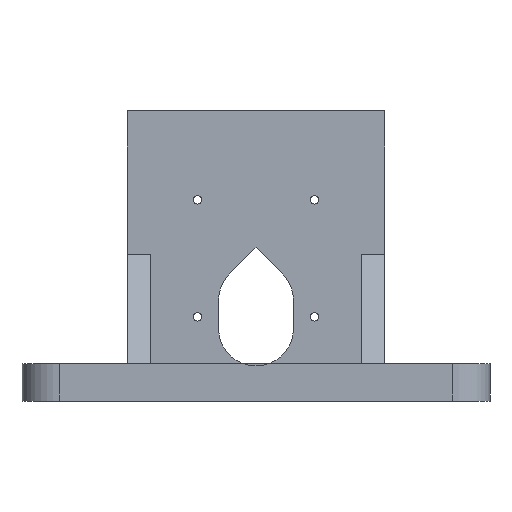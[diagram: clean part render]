
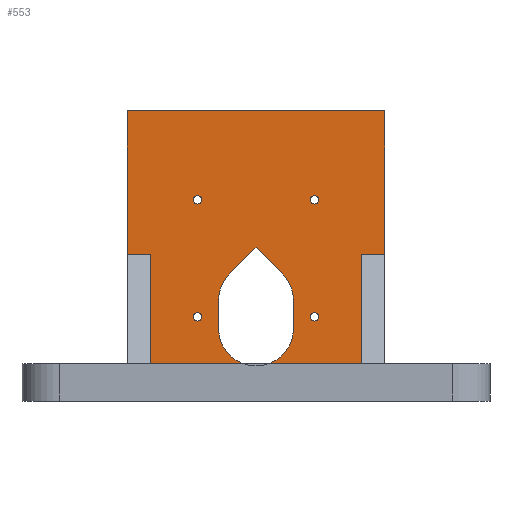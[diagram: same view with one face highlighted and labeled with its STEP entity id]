
A CAD part, left-side view. The second image highlights one B-rep face of the part: STEP entity #553.
In plain terms, the highlighted planar face has unit normal (-1, 0, 0).
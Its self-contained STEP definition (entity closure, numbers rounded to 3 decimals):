
#117 = VERTEX_POINT('',#118);
#118 = CARTESIAN_POINT('',(1.6,2.784,8.));
#124 = EDGE_CURVE('',#117,#125,#127,.T.);
#125 = VERTEX_POINT('',#126);
#126 = CARTESIAN_POINT('',(1.6,22.5,8.));
#127 = LINE('',#128,#129);
#128 = CARTESIAN_POINT('',(1.6,-13.75,8.));
#129 = VECTOR('',#130,1.);
#130 = DIRECTION('',(0.,1.,0.));
#213 = VERTEX_POINT('',#214);
#214 = CARTESIAN_POINT('',(1.6,-22.5,8.));
#220 = EDGE_CURVE('',#213,#221,#223,.T.);
#221 = VERTEX_POINT('',#222);
#222 = CARTESIAN_POINT('',(1.6,-2.784,8.));
#223 = LINE('',#224,#225);
#224 = CARTESIAN_POINT('',(1.6,-13.75,8.));
#225 = VECTOR('',#226,1.);
#226 = DIRECTION('',(0.,1.,0.));
#553 = ADVANCED_FACE('',(#554,#678,#689,#700,#711),#722,.F.);
#554 = FACE_BOUND('',#555,.F.);
#555 = EDGE_LOOP('',(#556,#566,#574,#580,#581,#590,#598,#607,#615,#623,
    #632,#640,#647,#648,#656,#664,#672));
#556 = ORIENTED_EDGE('',*,*,#557,.F.);
#557 = EDGE_CURVE('',#558,#560,#562,.T.);
#558 = VERTEX_POINT('',#559);
#559 = CARTESIAN_POINT('',(1.6,-27.5,31.375));
#560 = VERTEX_POINT('',#561);
#561 = CARTESIAN_POINT('',(1.6,-27.5,62.));
#562 = LINE('',#563,#564);
#563 = CARTESIAN_POINT('',(1.6,-27.5,7.));
#564 = VECTOR('',#565,1.);
#565 = DIRECTION('',(0.,0.,1.));
#566 = ORIENTED_EDGE('',*,*,#567,.F.);
#567 = EDGE_CURVE('',#568,#558,#570,.T.);
#568 = VERTEX_POINT('',#569);
#569 = CARTESIAN_POINT('',(1.6,-22.5,31.375));
#570 = LINE('',#571,#572);
#571 = CARTESIAN_POINT('',(1.6,-27.5,31.375));
#572 = VECTOR('',#573,1.);
#573 = DIRECTION('',(0.,-1.,0.));
#574 = ORIENTED_EDGE('',*,*,#575,.F.);
#575 = EDGE_CURVE('',#213,#568,#576,.T.);
#576 = LINE('',#577,#578);
#577 = CARTESIAN_POINT('',(1.6,-22.5,7.));
#578 = VECTOR('',#579,1.);
#579 = DIRECTION('',(0.,0.,1.));
#580 = ORIENTED_EDGE('',*,*,#220,.T.);
#581 = ORIENTED_EDGE('',*,*,#582,.T.);
#582 = EDGE_CURVE('',#221,#583,#585,.T.);
#583 = VERTEX_POINT('',#584);
#584 = CARTESIAN_POINT('',(1.6,-8.,15.5));
#585 = CIRCLE('',#586,8.);
#586 = AXIS2_PLACEMENT_3D('',#587,#588,#589);
#587 = CARTESIAN_POINT('',(1.6,0.,15.5));
#588 = DIRECTION('',(-1.,-0.,0.));
#589 = DIRECTION('',(0.,0.,-1.));
#590 = ORIENTED_EDGE('',*,*,#591,.T.);
#591 = EDGE_CURVE('',#583,#592,#594,.T.);
#592 = VERTEX_POINT('',#593);
#593 = CARTESIAN_POINT('',(1.6,-8.,21.5));
#594 = LINE('',#595,#596);
#595 = CARTESIAN_POINT('',(1.6,-8.,11.25));
#596 = VECTOR('',#597,1.);
#597 = DIRECTION('',(0.,0.,1.));
#598 = ORIENTED_EDGE('',*,*,#599,.T.);
#599 = EDGE_CURVE('',#592,#600,#602,.T.);
#600 = VERTEX_POINT('',#601);
#601 = CARTESIAN_POINT('',(1.6,-5.657,27.157));
#602 = CIRCLE('',#603,8.);
#603 = AXIS2_PLACEMENT_3D('',#604,#605,#606);
#604 = CARTESIAN_POINT('',(1.6,0.,21.5));
#605 = DIRECTION('',(-1.,-0.,0.));
#606 = DIRECTION('',(0.,0.,-1.));
#607 = ORIENTED_EDGE('',*,*,#608,.T.);
#608 = EDGE_CURVE('',#600,#609,#611,.T.);
#609 = VERTEX_POINT('',#610);
#610 = CARTESIAN_POINT('',(1.6,0.,32.814));
#611 = LINE('',#612,#613);
#612 = CARTESIAN_POINT('',(1.6,-13.328,19.485));
#613 = VECTOR('',#614,1.);
#614 = DIRECTION('',(0.,0.707,0.707));
#615 = ORIENTED_EDGE('',*,*,#616,.T.);
#616 = EDGE_CURVE('',#609,#617,#619,.T.);
#617 = VERTEX_POINT('',#618);
#618 = CARTESIAN_POINT('',(1.6,5.657,27.157));
#619 = LINE('',#620,#621);
#620 = CARTESIAN_POINT('',(1.6,5.235,27.578));
#621 = VECTOR('',#622,1.);
#622 = DIRECTION('',(0.,0.707,-0.707));
#623 = ORIENTED_EDGE('',*,*,#624,.T.);
#624 = EDGE_CURVE('',#617,#625,#627,.T.);
#625 = VERTEX_POINT('',#626);
#626 = CARTESIAN_POINT('',(1.6,8.,21.5));
#627 = CIRCLE('',#628,8.);
#628 = AXIS2_PLACEMENT_3D('',#629,#630,#631);
#629 = CARTESIAN_POINT('',(1.6,0.,21.5));
#630 = DIRECTION('',(-1.,-0.,0.));
#631 = DIRECTION('',(0.,0.,-1.));
#632 = ORIENTED_EDGE('',*,*,#633,.F.);
#633 = EDGE_CURVE('',#634,#625,#636,.T.);
#634 = VERTEX_POINT('',#635);
#635 = CARTESIAN_POINT('',(1.6,8.,15.5));
#636 = LINE('',#637,#638);
#637 = CARTESIAN_POINT('',(1.6,8.,11.25));
#638 = VECTOR('',#639,1.);
#639 = DIRECTION('',(0.,0.,1.));
#640 = ORIENTED_EDGE('',*,*,#641,.T.);
#641 = EDGE_CURVE('',#634,#117,#642,.T.);
#642 = CIRCLE('',#643,8.);
#643 = AXIS2_PLACEMENT_3D('',#644,#645,#646);
#644 = CARTESIAN_POINT('',(1.6,0.,15.5));
#645 = DIRECTION('',(-1.,-0.,0.));
#646 = DIRECTION('',(0.,0.,-1.));
#647 = ORIENTED_EDGE('',*,*,#124,.T.);
#648 = ORIENTED_EDGE('',*,*,#649,.T.);
#649 = EDGE_CURVE('',#125,#650,#652,.T.);
#650 = VERTEX_POINT('',#651);
#651 = CARTESIAN_POINT('',(1.6,22.5,31.375));
#652 = LINE('',#653,#654);
#653 = CARTESIAN_POINT('',(1.6,22.5,7.));
#654 = VECTOR('',#655,1.);
#655 = DIRECTION('',(0.,0.,1.));
#656 = ORIENTED_EDGE('',*,*,#657,.F.);
#657 = EDGE_CURVE('',#658,#650,#660,.T.);
#658 = VERTEX_POINT('',#659);
#659 = CARTESIAN_POINT('',(1.6,27.5,31.375));
#660 = LINE('',#661,#662);
#661 = CARTESIAN_POINT('',(1.6,-2.5,31.375));
#662 = VECTOR('',#663,1.);
#663 = DIRECTION('',(0.,-1.,0.));
#664 = ORIENTED_EDGE('',*,*,#665,.T.);
#665 = EDGE_CURVE('',#658,#666,#668,.T.);
#666 = VERTEX_POINT('',#667);
#667 = CARTESIAN_POINT('',(1.6,27.5,62.));
#668 = LINE('',#669,#670);
#669 = CARTESIAN_POINT('',(1.6,27.5,7.));
#670 = VECTOR('',#671,1.);
#671 = DIRECTION('',(0.,0.,1.));
#672 = ORIENTED_EDGE('',*,*,#673,.F.);
#673 = EDGE_CURVE('',#560,#666,#674,.T.);
#674 = LINE('',#675,#676);
#675 = CARTESIAN_POINT('',(1.6,-27.5,62.));
#676 = VECTOR('',#677,1.);
#677 = DIRECTION('',(0.,1.,0.));
#678 = FACE_BOUND('',#679,.F.);
#679 = EDGE_LOOP('',(#680));
#680 = ORIENTED_EDGE('',*,*,#681,.T.);
#681 = EDGE_CURVE('',#682,#682,#684,.T.);
#682 = VERTEX_POINT('',#683);
#683 = CARTESIAN_POINT('',(1.6,12.5,17.1));
#684 = CIRCLE('',#685,0.9);
#685 = AXIS2_PLACEMENT_3D('',#686,#687,#688);
#686 = CARTESIAN_POINT('',(1.6,12.5,18.));
#687 = DIRECTION('',(-1.,-0.,0.));
#688 = DIRECTION('',(0.,0.,-1.));
#689 = FACE_BOUND('',#690,.F.);
#690 = EDGE_LOOP('',(#691));
#691 = ORIENTED_EDGE('',*,*,#692,.T.);
#692 = EDGE_CURVE('',#693,#693,#695,.T.);
#693 = VERTEX_POINT('',#694);
#694 = CARTESIAN_POINT('',(1.6,12.5,42.1));
#695 = CIRCLE('',#696,0.9);
#696 = AXIS2_PLACEMENT_3D('',#697,#698,#699);
#697 = CARTESIAN_POINT('',(1.6,12.5,43.));
#698 = DIRECTION('',(-1.,-0.,0.));
#699 = DIRECTION('',(0.,0.,-1.));
#700 = FACE_BOUND('',#701,.F.);
#701 = EDGE_LOOP('',(#702));
#702 = ORIENTED_EDGE('',*,*,#703,.T.);
#703 = EDGE_CURVE('',#704,#704,#706,.T.);
#704 = VERTEX_POINT('',#705);
#705 = CARTESIAN_POINT('',(1.6,-12.5,17.1));
#706 = CIRCLE('',#707,0.9);
#707 = AXIS2_PLACEMENT_3D('',#708,#709,#710);
#708 = CARTESIAN_POINT('',(1.6,-12.5,18.));
#709 = DIRECTION('',(-1.,-0.,0.));
#710 = DIRECTION('',(0.,0.,-1.));
#711 = FACE_BOUND('',#712,.F.);
#712 = EDGE_LOOP('',(#713));
#713 = ORIENTED_EDGE('',*,*,#714,.T.);
#714 = EDGE_CURVE('',#715,#715,#717,.T.);
#715 = VERTEX_POINT('',#716);
#716 = CARTESIAN_POINT('',(1.6,-12.5,42.1));
#717 = CIRCLE('',#718,0.9);
#718 = AXIS2_PLACEMENT_3D('',#719,#720,#721);
#719 = CARTESIAN_POINT('',(1.6,-12.5,43.));
#720 = DIRECTION('',(-1.,-0.,0.));
#721 = DIRECTION('',(0.,0.,-1.));
#722 = PLANE('',#723);
#723 = AXIS2_PLACEMENT_3D('',#724,#725,#726);
#724 = CARTESIAN_POINT('',(1.6,-27.5,7.));
#725 = DIRECTION('',(1.,0.,0.));
#726 = DIRECTION('',(0.,0.,1.));
